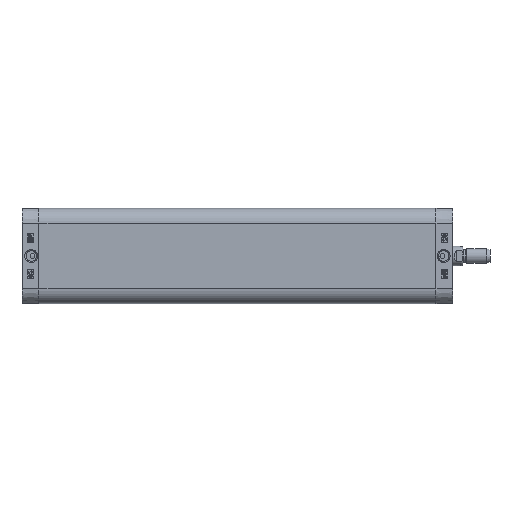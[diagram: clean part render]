
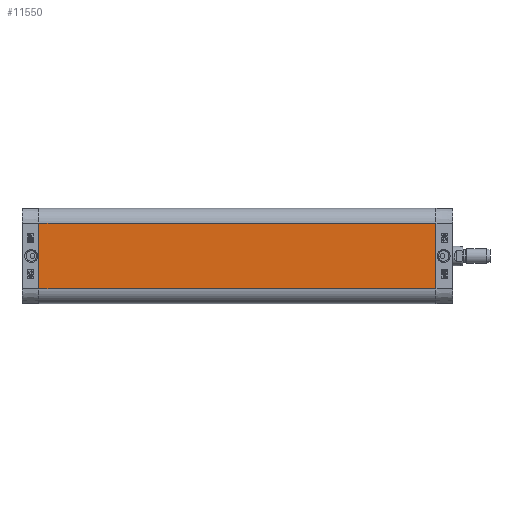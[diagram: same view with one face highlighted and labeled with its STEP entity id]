
A CAD part, left-side view. The second image highlights one B-rep face of the part: STEP entity #11550.
In plain terms, the highlighted planar face has unit normal (-1, 0, 0).
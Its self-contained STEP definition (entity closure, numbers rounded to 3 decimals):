
#5866=CARTESIAN_POINT('',(-38.5,-321.5,26.5));
#5867=VERTEX_POINT('',#5866);
#5874=CARTESIAN_POINT('',(-38.5,-321.5,-26.5));
#5875=VERTEX_POINT('',#5874);
#5876=CARTESIAN_POINT('',(-38.5,-321.5,-26.5));
#5877=DIRECTION('',(0.0,0.0,1.0));
#5878=VECTOR('',#5877,53.0);
#5879=LINE('',#5876,#5878);
#5880=EDGE_CURVE('',#5875,#5867,#5879,.T.);
#11508=CARTESIAN_POINT('',(-38.5,0.0,-26.5));
#11509=VERTEX_POINT('',#11508);
#11510=CARTESIAN_POINT('',(-38.5,0.0,-26.5));
#11511=DIRECTION('',(0.0,-1.0,0.0));
#11512=VECTOR('',#11511,321.5);
#11513=LINE('',#11510,#11512);
#11514=EDGE_CURVE('',#11509,#5875,#11513,.T.);
#11527=CARTESIAN_POINT('',(-38.5,0.0,-26.5));
#11528=DIRECTION('',(-1.0,0.0,0.0));
#11529=DIRECTION('',(0.0,0.0,1.0));
#11530=AXIS2_PLACEMENT_3D('',#11527,#11528,#11529);
#11531=PLANE('',#11530);
#11532=ORIENTED_EDGE('',*,*,#5880,.T.);
#11533=CARTESIAN_POINT('',(-38.5,0.0,26.5));
#11534=VERTEX_POINT('',#11533);
#11535=CARTESIAN_POINT('',(-38.5,0.0,26.5));
#11536=DIRECTION('',(0.0,-1.0,0.0));
#11537=VECTOR('',#11536,321.5);
#11538=LINE('',#11535,#11537);
#11539=EDGE_CURVE('',#11534,#5867,#11538,.T.);
#11540=ORIENTED_EDGE('',*,*,#11539,.F.);
#11541=CARTESIAN_POINT('',(-38.5,0.0,-26.5));
#11542=DIRECTION('',(0.0,0.0,1.0));
#11543=VECTOR('',#11542,53.0);
#11544=LINE('',#11541,#11543);
#11545=EDGE_CURVE('',#11509,#11534,#11544,.T.);
#11546=ORIENTED_EDGE('',*,*,#11545,.F.);
#11547=ORIENTED_EDGE('',*,*,#11514,.T.);
#11548=EDGE_LOOP('',(#11532,#11540,#11546,#11547));
#11549=FACE_OUTER_BOUND('',#11548,.T.);
#11550=ADVANCED_FACE('',(#11549),#11531,.T.);
